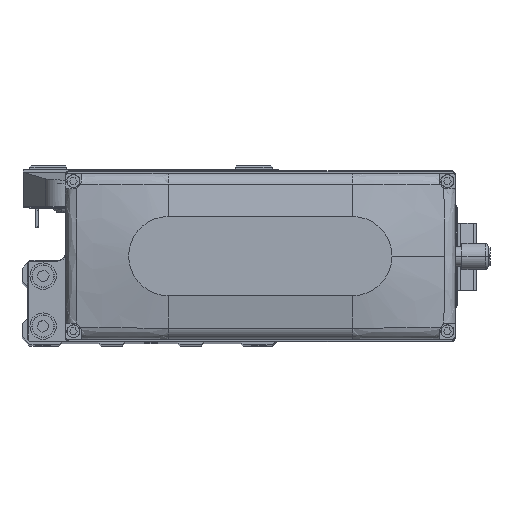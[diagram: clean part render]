
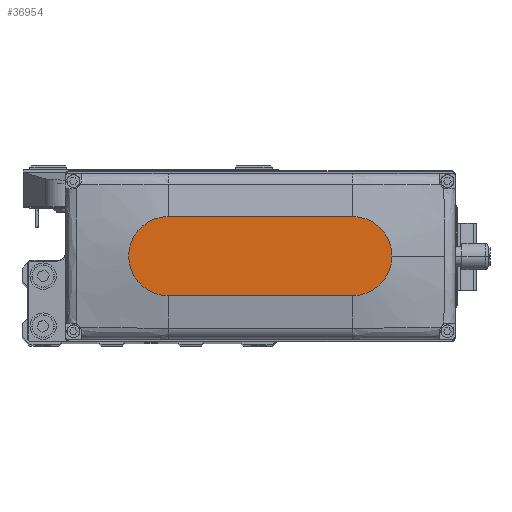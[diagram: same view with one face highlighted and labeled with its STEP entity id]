
A CAD part, top view. The second image highlights one B-rep face of the part: STEP entity #36954.
In plain terms, the highlighted planar face has unit normal (0, 0, 1).
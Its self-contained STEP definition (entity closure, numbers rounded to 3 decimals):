
#613 = VERTEX_POINT ( 'NONE', #2464 ) ;
#632 = DIRECTION ( 'NONE',  ( 0., 0., 1. ) ) ;
#2464 = CARTESIAN_POINT ( 'NONE',  ( -35., -15., 35. ) ) ;
#4981 = ORIENTED_EDGE ( 'NONE', *, *, #10549, .T. ) ;
#5196 = ORIENTED_EDGE ( 'NONE', *, *, #18698, .T. ) ;
#5713 = CARTESIAN_POINT ( 'NONE',  ( -35., 15., 35. ) ) ;
#6659 = CIRCLE ( 'NONE', #31347, 15. ) ;
#8410 = CARTESIAN_POINT ( 'NONE',  ( -35., -15., 35. ) ) ;
#9590 = CARTESIAN_POINT ( 'NONE',  ( 35., 0., 35. ) ) ;
#10194 = VERTEX_POINT ( 'NONE', #17527 ) ;
#10231 = DIRECTION ( 'NONE',  ( 1., 0., 0. ) ) ;
#10358 = CARTESIAN_POINT ( 'NONE',  ( 0., 0., 35. ) ) ;
#10549 = EDGE_CURVE ( 'NONE', #42043, #613, #6659, .T. ) ;
#13186 = EDGE_CURVE ( 'NONE', #613, #23158, #38641, .T. ) ;
#13346 = CARTESIAN_POINT ( 'NONE',  ( -35., 15., 35. ) ) ;
#14106 = DIRECTION ( 'NONE',  ( 1., 0., 0. ) ) ;
#14342 = CIRCLE ( 'NONE', #38989, 15. ) ;
#17527 = CARTESIAN_POINT ( 'NONE',  ( 35., 15., 35. ) ) ;
#17586 = AXIS2_PLACEMENT_3D ( 'NONE', #9590, #23074, #36506 ) ;
#18698 = EDGE_CURVE ( 'NONE', #10194, #42043, #43567, .T. ) ;
#21083 = CARTESIAN_POINT ( 'NONE',  ( 35., -15., 35. ) ) ;
#21890 = DIRECTION ( 'NONE',  ( 1., 0., 0. ) ) ;
#23074 = DIRECTION ( 'NONE',  ( 0., 0., 1. ) ) ;
#23158 = VERTEX_POINT ( 'NONE', #21083 ) ;
#23831 = DIRECTION ( 'NONE',  ( 0., 0., 1. ) ) ;
#24739 = EDGE_CURVE ( 'NONE', #30214, #10194, #14342, .T. ) ;
#25341 = ORIENTED_EDGE ( 'NONE', *, *, #24739, .T. ) ;
#25895 = AXIS2_PLACEMENT_3D ( 'NONE', #10358, #23831, #37267 ) ;
#26810 = DIRECTION ( 'NONE',  ( -1., 0., 0. ) ) ;
#27003 = CARTESIAN_POINT ( 'NONE',  ( 35., 0., 35. ) ) ;
#27148 = FACE_OUTER_BOUND ( 'NONE', #34574, .T. ) ;
#28917 = CARTESIAN_POINT ( 'NONE',  ( 50., 0., 35. ) ) ;
#30214 = VERTEX_POINT ( 'NONE', #28917 ) ;
#30882 = CARTESIAN_POINT ( 'NONE',  ( -35., 0., 35. ) ) ;
#31347 = AXIS2_PLACEMENT_3D ( 'NONE', #30882, #632, #14106 ) ;
#31736 = ORIENTED_EDGE ( 'NONE', *, *, #34698, .T. ) ;
#34574 = EDGE_LOOP ( 'NONE', ( #5196, #4981, #38215, #31736, #25341 ) ) ;
#34698 = EDGE_CURVE ( 'NONE', #23158, #30214, #36591, .T. ) ;
#36506 = DIRECTION ( 'NONE',  ( 1., 0., 0. ) ) ;
#36591 = CIRCLE ( 'NONE', #17586, 15. ) ;
#36954 = ADVANCED_FACE ( 'NONE', ( #27148 ), #40594, .T. ) ;
#37267 = DIRECTION ( 'NONE',  ( 1., 0., 0. ) ) ;
#38215 = ORIENTED_EDGE ( 'NONE', *, *, #13186, .T. ) ;
#38641 = LINE ( 'NONE', #8410, #40373 ) ;
#38989 = AXIS2_PLACEMENT_3D ( 'NONE', #27003, #40460, #10231 ) ;
#40373 = VECTOR ( 'NONE', #21890, 1000. ) ;
#40460 = DIRECTION ( 'NONE',  ( 0., 0., 1. ) ) ;
#40594 = PLANE ( 'NONE',  #25895 ) ;
#41806 = VECTOR ( 'NONE', #26810, 1000. ) ;
#42043 = VERTEX_POINT ( 'NONE', #5713 ) ;
#43567 = LINE ( 'NONE', #13346, #41806 ) ;
